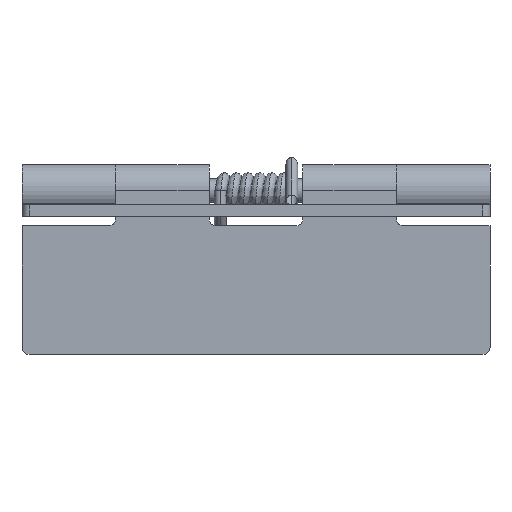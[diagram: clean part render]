
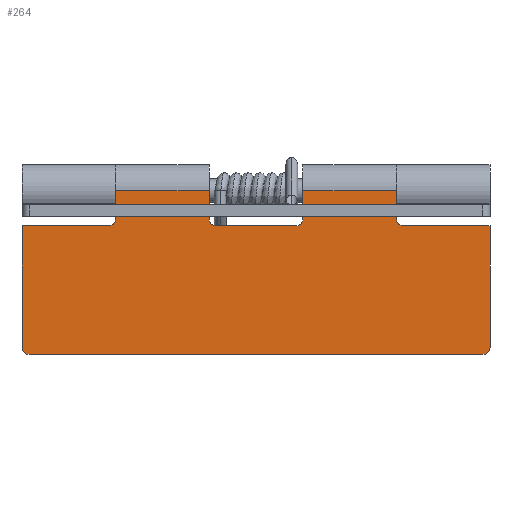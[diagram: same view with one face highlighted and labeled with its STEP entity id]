
A CAD part, left-side view. The second image highlights one B-rep face of the part: STEP entity #264.
In plain terms, the highlighted planar face has unit normal (-1, 0, 0) as drawn and (0, 0, -1) by its records, which use the part's own axes.
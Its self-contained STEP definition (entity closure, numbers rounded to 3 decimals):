
#22 = VERTEX_POINT ( 'NONE', #3469 ) ;
#63 = EDGE_CURVE ( 'NONE', #2341, #2118, #908, .T. ) ;
#67 = VERTEX_POINT ( 'NONE', #944 ) ;
#72 = VERTEX_POINT ( 'NONE', #1014 ) ;
#76 = EDGE_CURVE ( 'NONE', #67, #107, #1058, .T. ) ;
#86 = ORIENTED_EDGE ( 'NONE', *, *, #76, .F. ) ;
#96 = EDGE_CURVE ( 'NONE', #2322, #116, #1415, .T. ) ;
#107 = VERTEX_POINT ( 'NONE', #2635 ) ;
#116 = VERTEX_POINT ( 'NONE', #3487 ) ;
#121 = EDGE_CURVE ( 'NONE', #3045, #107, #3511, .T. ) ;
#133 = ORIENTED_EDGE ( 'NONE', *, *, #121, .T. ) ;
#151 = ORIENTED_EDGE ( 'NONE', *, *, #2192, .T. ) ;
#167 = EDGE_CURVE ( 'NONE', #2322, #1704, #1159, .T. ) ;
#185 = EDGE_CURVE ( 'NONE', #1059, #2121, #2512, .T. ) ;
#190 = EDGE_LOOP ( 'NONE', ( #3580, #133, #86, #2166, #2401, #2350, #2106, #2187, #2272, #2213, #2423, #2412, #2271, #799, #2274, #2405, #2313, #151 ) ) ;
#202 = CARTESIAN_POINT ( 'NONE',  ( -1.2, 2., -1.1 ) ) ;
#264 = ADVANCED_FACE ( 'NONE', ( #3476 ), #3477, .F. ) ;
#403 = EDGE_CURVE ( 'NONE', #2273, #72, #3522, .T. ) ;
#644 = VERTEX_POINT ( 'NONE', #3685 ) ;
#799 = ORIENTED_EDGE ( 'NONE', *, *, #63, .T. ) ;
#908 = CIRCLE ( 'NONE', #909, 0.3 ) ;
#909 = AXIS2_PLACEMENT_3D ( 'NONE', #910, #911, #912 ) ;
#910 = CARTESIAN_POINT ( 'NONE',  ( -1.2, 1.7, -1.1 ) ) ;
#911 = DIRECTION ( 'NONE',  ( 0., 0., 1. ) ) ;
#912 = DIRECTION ( 'NONE',  ( 1., 0., 0. ) ) ;
#944 = CARTESIAN_POINT ( 'NONE',  ( -1.5, -10., -1.1 ) ) ;
#992 = CARTESIAN_POINT ( 'NONE',  ( -1.2, -6., -1.1 ) ) ;
#1014 = CARTESIAN_POINT ( 'NONE',  ( 0., 2., -1.1 ) ) ;
#1019 = LINE ( 'NONE', #1020, #1021 ) ;
#1020 = CARTESIAN_POINT ( 'NONE',  ( -1.5, -2., -1.1 ) ) ;
#1021 = VECTOR ( 'NONE', #1022, 1000. ) ;
#1022 = DIRECTION ( 'NONE',  ( 0., 1., 0. ) ) ;
#1058 = LINE ( 'NONE', #1062, #1063 ) ;
#1059 = VERTEX_POINT ( 'NONE', #3895 ) ;
#1062 = CARTESIAN_POINT ( 'NONE',  ( -1.5, -10.001, -1.1 ) ) ;
#1063 = VECTOR ( 'NONE', #1064, 1000. ) ;
#1064 = DIRECTION ( 'NONE',  ( 0., 1., 0. ) ) ;
#1122 = LINE ( 'NONE', #1123, #1124 ) ;
#1123 = CARTESIAN_POINT ( 'NONE',  ( 0., -6., -1.1 ) ) ;
#1124 = VECTOR ( 'NONE', #1125, 1000. ) ;
#1125 = DIRECTION ( 'NONE',  ( -1., 0., 0. ) ) ;
#1159 = LINE ( 'NONE', #1160, #1161 ) ;
#1160 = CARTESIAN_POINT ( 'NONE',  ( 0., 10., -1.1 ) ) ;
#1161 = VECTOR ( 'NONE', #1162, 1000. ) ;
#1162 = DIRECTION ( 'NONE',  ( -1., 0., 0. ) ) ;
#1172 = CIRCLE ( 'NONE', #1173, 0.3 ) ;
#1173 = AXIS2_PLACEMENT_3D ( 'NONE', #1174, #1175, #1176 ) ;
#1174 = CARTESIAN_POINT ( 'NONE',  ( -1.2, 6.3, -1.1 ) ) ;
#1175 = DIRECTION ( 'NONE',  ( 0., 0., 1. ) ) ;
#1176 = DIRECTION ( 'NONE',  ( 1., 0., 0. ) ) ;
#1177 = CARTESIAN_POINT ( 'NONE',  ( -6.7, 10., -1.1 ) ) ;
#1183 = EDGE_CURVE ( 'NONE', #2179, #2121, #3960, .T. ) ;
#1282 = CIRCLE ( 'NONE', #1283, 0.3 ) ;
#1283 = AXIS2_PLACEMENT_3D ( 'NONE', #1284, #1285, #1287 ) ;
#1284 = CARTESIAN_POINT ( 'NONE',  ( -6.7, 9.7, -1.1 ) ) ;
#1285 = DIRECTION ( 'NONE',  ( 0., 0., -1. ) ) ;
#1287 = DIRECTION ( 'NONE',  ( 1., 0., 0. ) ) ;
#1288 = CARTESIAN_POINT ( 'NONE',  ( -7., -9.7, -1.1 ) ) ;
#1415 = LINE ( 'NONE', #1416, #1417 ) ;
#1416 = CARTESIAN_POINT ( 'NONE',  ( -1.5, 10.001, -1.1 ) ) ;
#1417 = VECTOR ( 'NONE', #1418, 1000. ) ;
#1418 = DIRECTION ( 'NONE',  ( 0., -1., 0. ) ) ;
#1439 = CIRCLE ( 'NONE', #1440, 0.3 ) ;
#1440 = AXIS2_PLACEMENT_3D ( 'NONE', #1441, #1442, #1443 ) ;
#1441 = CARTESIAN_POINT ( 'NONE',  ( -6.7, -9.7, -1.1 ) ) ;
#1442 = DIRECTION ( 'NONE',  ( 0., 0., -1. ) ) ;
#1443 = DIRECTION ( 'NONE',  ( 1., 0., 0. ) ) ;
#1703 = EDGE_CURVE ( 'NONE', #116, #644, #1172, .T. ) ;
#1704 = VERTEX_POINT ( 'NONE', #1177 ) ;
#1915 = EDGE_CURVE ( 'NONE', #2154, #1704, #1282, .T. ) ;
#2106 = ORIENTED_EDGE ( 'NONE', *, *, #1915, .T. ) ;
#2118 = VERTEX_POINT ( 'NONE', #2649 ) ;
#2119 = VERTEX_POINT ( 'NONE', #2742 ) ;
#2121 = VERTEX_POINT ( 'NONE', #2773 ) ;
#2134 = EDGE_CURVE ( 'NONE', #67, #2119, #3526, .T. ) ;
#2139 = EDGE_CURVE ( 'NONE', #2273, #644, #3535, .T. ) ;
#2154 = VERTEX_POINT ( 'NONE', #3623 ) ;
#2166 = ORIENTED_EDGE ( 'NONE', *, *, #2134, .T. ) ;
#2168 = EDGE_CURVE ( 'NONE', #2154, #2376, #3724, .T. ) ;
#2179 = VERTEX_POINT ( 'NONE', #3796 ) ;
#2187 = ORIENTED_EDGE ( 'NONE', *, *, #167, .F. ) ;
#2192 = EDGE_CURVE ( 'NONE', #2179, #22, #3876, .T. ) ;
#2198 = EDGE_CURVE ( 'NONE', #72, #2341, #3906, .T. ) ;
#2213 = ORIENTED_EDGE ( 'NONE', *, *, #1703, .T. ) ;
#2231 = EDGE_CURVE ( 'NONE', #1059, #2118, #1019, .T. ) ;
#2271 = ORIENTED_EDGE ( 'NONE', *, *, #2198, .T. ) ;
#2272 = ORIENTED_EDGE ( 'NONE', *, *, #96, .T. ) ;
#2273 = VERTEX_POINT ( 'NONE', #2450 ) ;
#2274 = ORIENTED_EDGE ( 'NONE', *, *, #2231, .F. ) ;
#2313 = ORIENTED_EDGE ( 'NONE', *, *, #1183, .F. ) ;
#2322 = VERTEX_POINT ( 'NONE', #3795 ) ;
#2341 = VERTEX_POINT ( 'NONE', #202 ) ;
#2350 = ORIENTED_EDGE ( 'NONE', *, *, #2168, .F. ) ;
#2376 = VERTEX_POINT ( 'NONE', #1288 ) ;
#2385 = EDGE_CURVE ( 'NONE', #2119, #2376, #1439, .T. ) ;
#2401 = ORIENTED_EDGE ( 'NONE', *, *, #2385, .T. ) ;
#2405 = ORIENTED_EDGE ( 'NONE', *, *, #185, .T. ) ;
#2412 = ORIENTED_EDGE ( 'NONE', *, *, #403, .T. ) ;
#2423 = ORIENTED_EDGE ( 'NONE', *, *, #2139, .F. ) ;
#2450 = CARTESIAN_POINT ( 'NONE',  ( 0., 6., -1.1 ) ) ;
#2512 = CIRCLE ( 'NONE', #2513, 0.3 ) ;
#2513 = AXIS2_PLACEMENT_3D ( 'NONE', #2514, #2515, #2516 ) ;
#2514 = CARTESIAN_POINT ( 'NONE',  ( -1.2, -1.7, -1.1 ) ) ;
#2515 = DIRECTION ( 'NONE',  ( 0., 0., 1. ) ) ;
#2516 = DIRECTION ( 'NONE',  ( 1., 0., 0. ) ) ;
#2635 = CARTESIAN_POINT ( 'NONE',  ( -1.5, -6.3, -1.1 ) ) ;
#2649 = CARTESIAN_POINT ( 'NONE',  ( -1.5, 1.7, -1.1 ) ) ;
#2742 = CARTESIAN_POINT ( 'NONE',  ( -6.7, -10., -1.1 ) ) ;
#2773 = CARTESIAN_POINT ( 'NONE',  ( -1.2, -2., -1.1 ) ) ;
#3045 = VERTEX_POINT ( 'NONE', #992 ) ;
#3244 = EDGE_CURVE ( 'NONE', #22, #3045, #1122, .T. ) ;
#3469 = CARTESIAN_POINT ( 'NONE',  ( 0., -6., -1.1 ) ) ;
#3476 = FACE_OUTER_BOUND ( 'NONE', #190, .T. ) ;
#3477 = PLANE ( 'NONE',  #3478 ) ;
#3478 = AXIS2_PLACEMENT_3D ( 'NONE', #3479, #3480, #3481 ) ;
#3479 = CARTESIAN_POINT ( 'NONE',  ( 0., 10., -1.1 ) ) ;
#3480 = DIRECTION ( 'NONE',  ( 0., 0., 1. ) ) ;
#3481 = DIRECTION ( 'NONE',  ( 1., 0., 0. ) ) ;
#3487 = CARTESIAN_POINT ( 'NONE',  ( -1.5, 6.3, -1.1 ) ) ;
#3511 = CIRCLE ( 'NONE', #3512, 0.3 ) ;
#3512 = AXIS2_PLACEMENT_3D ( 'NONE', #3513, #3514, #3515 ) ;
#3513 = CARTESIAN_POINT ( 'NONE',  ( -1.2, -6.3, -1.1 ) ) ;
#3514 = DIRECTION ( 'NONE',  ( 0., 0., 1. ) ) ;
#3515 = DIRECTION ( 'NONE',  ( 1., 0., 0. ) ) ;
#3522 = LINE ( 'NONE', #3523, #3524 ) ;
#3523 = CARTESIAN_POINT ( 'NONE',  ( 0., 10., -1.1 ) ) ;
#3524 = VECTOR ( 'NONE', #3525, 1000. ) ;
#3525 = DIRECTION ( 'NONE',  ( 0., -1., 0. ) ) ;
#3526 = LINE ( 'NONE', #3527, #3528 ) ;
#3527 = CARTESIAN_POINT ( 'NONE',  ( 0., -10., -1.1 ) ) ;
#3528 = VECTOR ( 'NONE', #3529, 1000. ) ;
#3529 = DIRECTION ( 'NONE',  ( -1., 0., 0. ) ) ;
#3535 = LINE ( 'NONE', #3536, #3537 ) ;
#3536 = CARTESIAN_POINT ( 'NONE',  ( 0., 6., -1.1 ) ) ;
#3537 = VECTOR ( 'NONE', #3538, 1000. ) ;
#3538 = DIRECTION ( 'NONE',  ( -1., 0., 0. ) ) ;
#3580 = ORIENTED_EDGE ( 'NONE', *, *, #3244, .T. ) ;
#3623 = CARTESIAN_POINT ( 'NONE',  ( -7., 9.7, -1.1 ) ) ;
#3685 = CARTESIAN_POINT ( 'NONE',  ( -1.2, 6., -1.1 ) ) ;
#3724 = LINE ( 'NONE', #3725, #3726 ) ;
#3725 = CARTESIAN_POINT ( 'NONE',  ( -7., 10., -1.1 ) ) ;
#3726 = VECTOR ( 'NONE', #3727, 1000. ) ;
#3727 = DIRECTION ( 'NONE',  ( 0., -1., 0. ) ) ;
#3795 = CARTESIAN_POINT ( 'NONE',  ( -1.5, 10., -1.1 ) ) ;
#3796 = CARTESIAN_POINT ( 'NONE',  ( 0., -2., -1.1 ) ) ;
#3876 = LINE ( 'NONE', #3877, #3878 ) ;
#3877 = CARTESIAN_POINT ( 'NONE',  ( 0., 10., -1.1 ) ) ;
#3878 = VECTOR ( 'NONE', #3879, 1000. ) ;
#3879 = DIRECTION ( 'NONE',  ( 0., -1., 0. ) ) ;
#3895 = CARTESIAN_POINT ( 'NONE',  ( -1.5, -1.7, -1.1 ) ) ;
#3906 = LINE ( 'NONE', #3907, #3908 ) ;
#3907 = CARTESIAN_POINT ( 'NONE',  ( 0., 2., -1.1 ) ) ;
#3908 = VECTOR ( 'NONE', #3909, 1000. ) ;
#3909 = DIRECTION ( 'NONE',  ( -1., 0., 0. ) ) ;
#3960 = LINE ( 'NONE', #3961, #3962 ) ;
#3961 = CARTESIAN_POINT ( 'NONE',  ( 0., -2., -1.1 ) ) ;
#3962 = VECTOR ( 'NONE', #3964, 1000. ) ;
#3964 = DIRECTION ( 'NONE',  ( -1., 0., 0. ) ) ;
